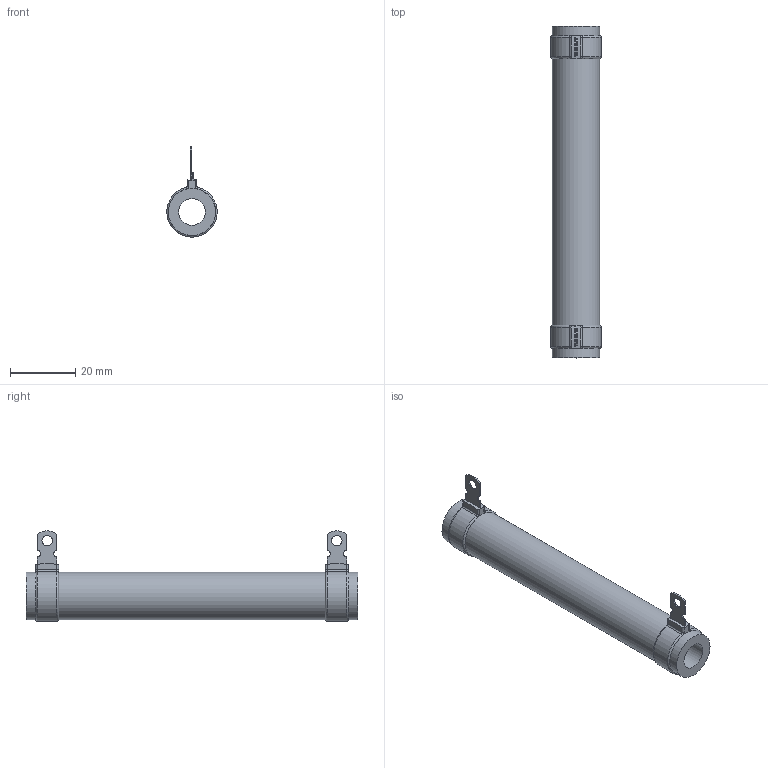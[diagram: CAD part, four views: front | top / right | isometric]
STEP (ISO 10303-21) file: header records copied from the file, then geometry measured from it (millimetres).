
FILE_DESCRIPTION(/* description */ (''),/* implementation_level */ '2;1');
FILE_NAME(/* name */ 'C:\_Vault\Dati\CATALOGO\RCA-RSA\25-1000\CA0050.stp',/* time_stamp */ '2014-01-22T14:42:49+01:00',/* author */ ('stefano'),/* organization */ (''),/* preprocessor_version */ 'ST-DEVELOPER v15.2',/* originating_system */ 'Autodesk Inventor 2014',/* authorisation */ '');
FILE_SCHEMA (('AUTOMOTIVE_DESIGN { 1 0 10303 214 3 1 1 }'));
Length unit declared in the file: millimetre
Products named in the file (1): CA0050
Bounding box: 15.49 x 102 x 27.75 mm (x, y, z)
Volume: 11924.3 mm3; surface area: 7940.1 mm2
Topology: 1 solids, 1 shells, 77 faces, 184 edges, 114 vertices
Faces by surface type: plane 35, cylinder 30, torus 12
Full cylindrical faces by diameter (mm): 3.2 x2, 8.2 x1, 14.5 x3
Entity records: 2371 total; most frequent: CARTESIAN_POINT 438, DIRECTION 406, ORIENTED_EDGE 352, EDGE_CURVE 176, AXIS2_PLACEMENT_3D 160, VERTEX_POINT 112, EDGE_LOOP 94, LINE 86
